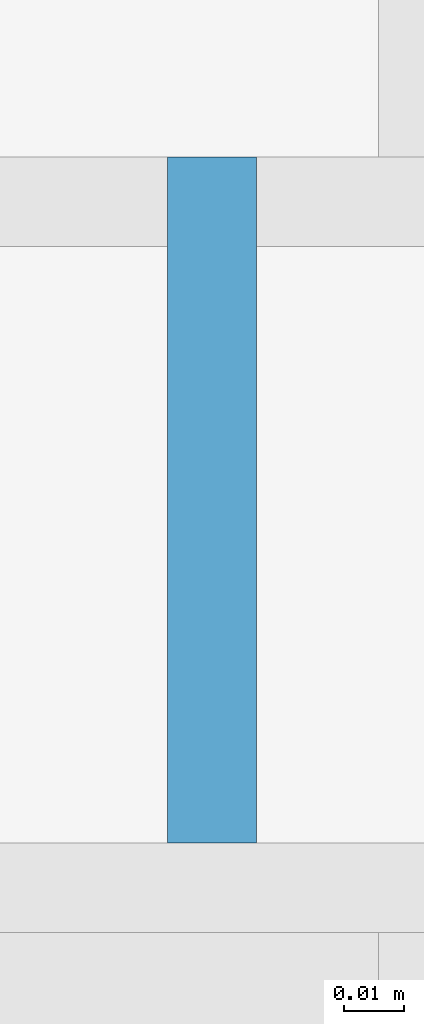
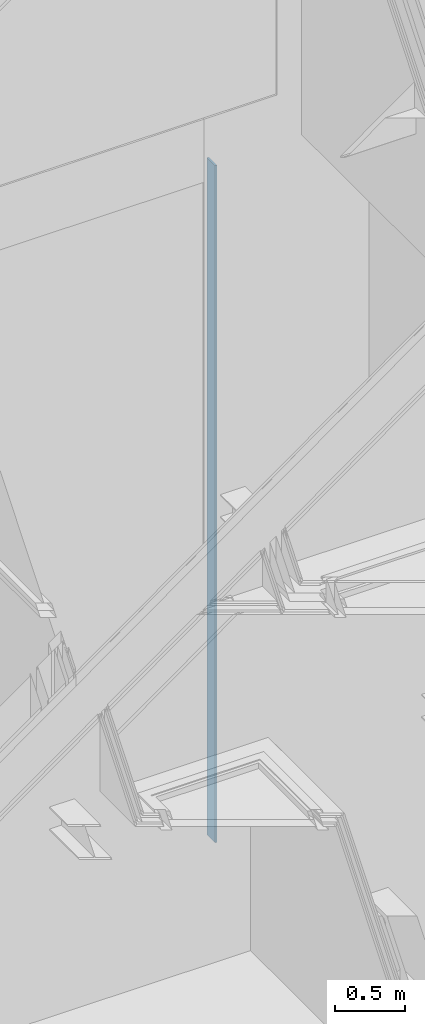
# One storey, part 277 of 583: 1 slab.
"""IFC2X3 building model written with IfcOpenShell, lengths in metres."""

from ifc_helpers import new_model, entity, si_unit, converted_unit, derived_unit, money_unit, direction, frame, origin_with_axes, place, context, subcontext, project, spatial, faceted_brep, material, type_object, element, save


model = new_model("IFC2X3")

# Units and contexts
model_context = context("Model", 3, precision=1e-05, world=origin_with_axes(), true_north=direction((0.0, 1.0)))
body_context = subcontext(model_context, "Body", "Model", "MODEL_VIEW", scale=1.0)
ifc_project = project(units=[si_unit("LENGTHUNIT", "METRE"), si_unit("AREAUNIT", "SQUARE_METRE"), si_unit("VOLUMEUNIT", "CUBIC_METRE"), si_unit("ABSORBEDDOSEUNIT", "GRAY"), si_unit("AMOUNTOFSUBSTANCEUNIT", "MOLE"), si_unit("DOSEEQUIVALENTUNIT", "SIEVERT"), si_unit("ELECTRICCAPACITANCEUNIT", "FARAD"), si_unit("ELECTRICCHARGEUNIT", "COULOMB"), si_unit("ELECTRICCONDUCTANCEUNIT", "SIEMENS"), si_unit("ELECTRICCURRENTUNIT", "AMPERE"), si_unit("ELECTRICRESISTANCEUNIT", "OHM"), si_unit("ELECTRICVOLTAGEUNIT", "VOLT"), si_unit("ENERGYUNIT", "JOULE"), si_unit("FORCEUNIT", "NEWTON"), si_unit("FREQUENCYUNIT", "HERTZ"), si_unit("ILLUMINANCEUNIT", "LUX"), si_unit("INDUCTANCEUNIT", "HENRY"), si_unit("LUMINOUSFLUXUNIT", "LUMEN"), si_unit("LUMINOUSINTENSITYUNIT", "CANDELA"), si_unit("MAGNETICFLUXDENSITYUNIT", "TESLA"), si_unit("MAGNETICFLUXUNIT", "WEBER"), si_unit("MASSUNIT", "GRAM"), converted_unit("PLANEANGLEUNIT", "degree", entity("IfcReal", 0.0174532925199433), si_unit("PLANEANGLEUNIT", "RADIAN"), dimensions=[0, 0, 0, 0, 0, 0, 0]), si_unit("POWERUNIT", "WATT"), si_unit("PRESSUREUNIT", "PASCAL"), si_unit("RADIOACTIVITYUNIT", "BECQUEREL"), si_unit("SOLIDANGLEUNIT", "STERADIAN"), si_unit("THERMODYNAMICTEMPERATUREUNIT", "KELVIN"), si_unit("TIMEUNIT", "SECOND"), derived_unit("ACCELERATIONUNIT", [(si_unit("LENGTHUNIT", "METRE"), 1), (si_unit("TIMEUNIT", "SECOND"), -2)]), derived_unit("ANGULARVELOCITYUNIT", [(converted_unit("PLANEANGLEUNIT", "degree", entity("IfcReal", 0.0174532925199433), si_unit("PLANEANGLEUNIT", "RADIAN"), dimensions=[0, 0, 0, 0, 0, 0, 0]), 1), (si_unit("TIMEUNIT", "SECOND"), -1)]), derived_unit("CURVATUREUNIT", [(converted_unit("PLANEANGLEUNIT", "degree", entity("IfcReal", 0.0174532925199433), si_unit("PLANEANGLEUNIT", "RADIAN"), dimensions=[0, 0, 0, 0, 0, 0, 0]), 1), (si_unit("LENGTHUNIT", "METRE"), -1)]), derived_unit("DYNAMICVISCOSITYUNIT", [(si_unit("PRESSUREUNIT", "PASCAL"), 1), (si_unit("TIMEUNIT", "SECOND"), 1)]), derived_unit("HEATFLUXDENSITYUNIT", [(si_unit("POWERUNIT", "WATT"), 1), (si_unit("LENGTHUNIT", "METRE"), -2)]), derived_unit("HEATINGVALUEUNIT", [(si_unit("ENERGYUNIT", "JOULE"), 1), (si_unit("MASSUNIT", "GRAM"), -1)]), derived_unit("INTEGERCOUNTRATEUNIT", [(si_unit("TIMEUNIT", "SECOND"), -1)]), derived_unit("IONCONCENTRATIONUNIT", [(si_unit("MASSUNIT", "GRAM"), 1), (si_unit("VOLUMEUNIT", "CUBIC_METRE"), -1)]), derived_unit("ISOTHERMALMOISTURECAPACITYUNIT", [(si_unit("VOLUMEUNIT", "CUBIC_METRE"), 1), (si_unit("MASSUNIT", "GRAM"), -1)]), derived_unit("KINEMATICVISCOSITYUNIT", [(si_unit("AREAUNIT", "SQUARE_METRE"), 1), (si_unit("TIMEUNIT", "SECOND"), -1)]), derived_unit("LINEARFORCEUNIT", [(si_unit("FORCEUNIT", "NEWTON"), 1), (si_unit("LENGTHUNIT", "METRE"), -1)]), derived_unit("LINEARMOMENTUNIT", [(si_unit("FORCEUNIT", "NEWTON"), 1), (si_unit("LENGTHUNIT", "METRE"), -1)]), derived_unit("LINEARSTIFFNESSUNIT", [(si_unit("FORCEUNIT", "NEWTON"), 1), (si_unit("LENGTHUNIT", "METRE"), -1)]), derived_unit("LINEARVELOCITYUNIT", [(si_unit("LENGTHUNIT", "METRE"), 1), (si_unit("TIMEUNIT", "SECOND"), -1)]), derived_unit("LUMINOUSINTENSITYDISTRIBUTIONUNIT", [(si_unit("LUMINOUSINTENSITYUNIT", "CANDELA"), 1), (si_unit("LUMINOUSFLUXUNIT", "LUMEN"), -1)]), derived_unit("MASSDENSITYUNIT", [(si_unit("MASSUNIT", "GRAM"), 1), (si_unit("VOLUMEUNIT", "CUBIC_METRE"), -1)]), derived_unit("MASSFLOWRATEUNIT", [(si_unit("MASSUNIT", "GRAM"), 1), (si_unit("TIMEUNIT", "SECOND"), -1)]), derived_unit("MASSPERLENGTHUNIT", [(si_unit("MASSUNIT", "GRAM"), 1), (si_unit("LENGTHUNIT", "METRE"), -1)]), derived_unit("MODULUSOFELASTICITYUNIT", [(si_unit("FORCEUNIT", "NEWTON"), 1), (si_unit("AREAUNIT", "SQUARE_METRE"), -1)]), derived_unit("MODULUSOFLINEARSUBGRADEREACTIONUNIT", [(si_unit("FORCEUNIT", "NEWTON"), 1), (si_unit("LENGTHUNIT", "METRE"), -2)]), derived_unit("MODULUSOFROTATIONALSUBGRADEREACTIONUNIT", [(si_unit("FORCEUNIT", "NEWTON"), 1), (si_unit("LENGTHUNIT", "METRE"), 1)]), derived_unit("MODULUSOFSUBGRADEREACTIONUNIT", [(si_unit("FORCEUNIT", "NEWTON"), 1), (si_unit("VOLUMEUNIT", "CUBIC_METRE"), -1)]), derived_unit("MOISTUREDIFFUSIVITYUNIT", [(si_unit("VOLUMEUNIT", "CUBIC_METRE"), 1), (si_unit("TIMEUNIT", "SECOND"), -1)]), derived_unit("MOLECULARWEIGHTUNIT", [(si_unit("MASSUNIT", "GRAM"), 1), (si_unit("AMOUNTOFSUBSTANCEUNIT", "MOLE"), -1)]), derived_unit("PLANARFORCEUNIT", [(si_unit("FORCEUNIT", "NEWTON"), 1), (si_unit("LENGTHUNIT", "METRE"), -2)]), derived_unit("ROTATIONALFREQUENCYUNIT", [(si_unit("TIMEUNIT", "SECOND"), -1)]), derived_unit("ROTATIONALMASSUNIT", [(si_unit("MASSUNIT", "GRAM"), 1), (si_unit("LENGTHUNIT", "METRE"), 2)]), derived_unit("ROTATIONALSTIFFNESSUNIT", [(si_unit("FORCEUNIT", "NEWTON"), 1), (si_unit("LENGTHUNIT", "METRE"), 1), (converted_unit("PLANEANGLEUNIT", "degree", entity("IfcReal", 0.0174532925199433), si_unit("PLANEANGLEUNIT", "RADIAN"), dimensions=[0, 0, 0, 0, 0, 0, 0]), -1)]), derived_unit("SECTIONAREAINTEGRALUNIT", [(si_unit("LENGTHUNIT", "METRE"), 5)]), derived_unit("SECTIONMODULUSUNIT", [(si_unit("LENGTHUNIT", "METRE"), 3)]), derived_unit("SHEARMODULUSUNIT", [(si_unit("FORCEUNIT", "NEWTON"), 1), (si_unit("AREAUNIT", "SQUARE_METRE"), -1)]), derived_unit("SOUNDPOWERUNIT", [(si_unit("ENERGYUNIT", "JOULE"), 1), (si_unit("TIMEUNIT", "SECOND"), -1)]), derived_unit("SPECIFICHEATCAPACITYUNIT", [(si_unit("FORCEUNIT", "NEWTON"), 1), (si_unit("MASSUNIT", "GRAM"), -1), (si_unit("THERMODYNAMICTEMPERATUREUNIT", "KELVIN"), -1)]), derived_unit("TEMPERATUREGRADIENTUNIT", [(si_unit("THERMODYNAMICTEMPERATUREUNIT", "KELVIN"), 1), (si_unit("LENGTHUNIT", "METRE"), -1)]), derived_unit("THERMALADMITTANCEUNIT", [(si_unit("POWERUNIT", "WATT"), 1), (si_unit("AREAUNIT", "SQUARE_METRE"), -1), (si_unit("THERMODYNAMICTEMPERATUREUNIT", "KELVIN"), -1)]), derived_unit("THERMALCONDUCTANCEUNIT", [(si_unit("POWERUNIT", "WATT"), 1), (si_unit("LENGTHUNIT", "METRE"), -1), (si_unit("THERMODYNAMICTEMPERATUREUNIT", "KELVIN"), -1)]), derived_unit("THERMALEXPANSIONCOEFFICIENTUNIT", [(si_unit("THERMODYNAMICTEMPERATUREUNIT", "KELVIN"), -1)]), derived_unit("THERMALRESISTANCEUNIT", [(si_unit("AREAUNIT", "SQUARE_METRE"), 1), (si_unit("POWERUNIT", "WATT"), -1)]), derived_unit("THERMALTRANSMITTANCEUNIT", [(si_unit("POWERUNIT", "WATT"), 1), (si_unit("AREAUNIT", "SQUARE_METRE"), -1), (si_unit("THERMODYNAMICTEMPERATUREUNIT", "KELVIN"), -1)]), derived_unit("TORQUEUNIT", [(si_unit("FORCEUNIT", "NEWTON"), 1), (si_unit("LENGTHUNIT", "METRE"), 1)]), derived_unit("VAPORPERMEABILITYUNIT", [(si_unit("MASSUNIT", "GRAM"), 1), (si_unit("TIMEUNIT", "SECOND"), -1)]), derived_unit("VOLUMETRICFLOWRATEUNIT", [(si_unit("VOLUMEUNIT", "CUBIC_METRE"), 1), (si_unit("TIMEUNIT", "SECOND"), -1)]), derived_unit("WARPINGCONSTANTUNIT", [(si_unit("LENGTHUNIT", "METRE"), 6)]), derived_unit("WARPINGMOMENTUNIT", [(si_unit("FORCEUNIT", "NEWTON"), 1), (si_unit("LENGTHUNIT", "METRE"), 2)]), money_unit("GBP")], contexts=[model_context])

# Site, building, storey
site_placement = place(None, origin_with_axes())
site = spatial("IfcSite", under=ifc_project, at=site_placement, Name="Site", CompositionType="ELEMENT")
building_placement = place(site_placement, origin_with_axes())
building = spatial("IfcBuilding", under=site, at=building_placement, Name="Building01", CompositionType="ELEMENT")
storey_placement = place(building_placement, frame((0.0, 0.0, 20.78), z_axis=(0.0, 0.0, 1.0), x_axis=(1.0, 0.0, 0.0)))
storey = spatial("IfcBuildingStorey", under=building, at=storey_placement, Name="RL", CompositionType="ELEMENT", Elevation=20.78)

# Slab
ifc_material = material(Name="A_BSUK_CeilingSoffitFinishes_Suspended")
slab_type = type_object("IfcSlabType", Name="A-FloorsSlabs A_BSUK_Slabs", PredefinedType="FLOOR")
slab_placement = place(storey_placement, frame((0.0, 0.0, -20.78), z_axis=(0.0, 0.0, 1.0), x_axis=(1.0, 0.0, 0.0)))
element("IfcSlab", 1, at=slab_placement, inside=storey, type_object=slab_type, material=ifc_material, Name="A-FloorsSlabs A_BSUK_Slabs", ObjectType="CompoundSlabLeaf", context=body_context, shape_type="Brep", body=[
    faceted_brep([(6.0884, 20.195, 9.0), (6.1034, 20.195, 9.0), (6.1034, 20.31, 9.0), (6.0884, 20.31, 9.0), (6.0884, 20.195, 3.1), (6.1034, 20.195, 3.1), (6.0884, 20.31, 3.1), (6.1034, 20.31, 3.1)], [[[0, 1, 2, 3]], [[4, 5, 1, 0]], [[6, 7, 5, 4]], [[3, 2, 7, 6]], [[1, 5, 7, 2]], [[3, 6, 4, 0]]]),
])

save(model, "model.ifc")
